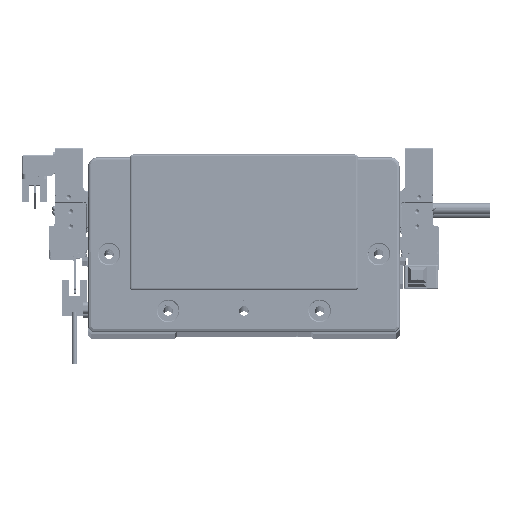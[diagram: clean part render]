
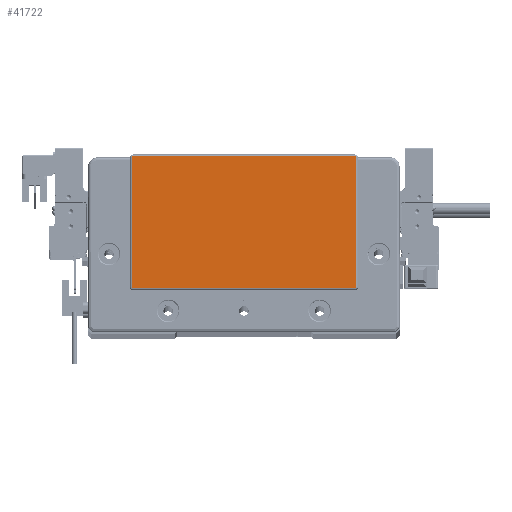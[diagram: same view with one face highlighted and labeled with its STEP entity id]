
A CAD part, top view. The second image highlights one B-rep face of the part: STEP entity #41722.
In plain terms, the highlighted planar face has unit normal (0, 0, 1) as drawn and (0, 0, -1) by its records, which use the part's own axes.
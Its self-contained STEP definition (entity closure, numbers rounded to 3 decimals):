
#4356 = DIRECTION ( 'NONE',  ( 0., 0., -1. ) ) ;
#4380 = CARTESIAN_POINT ( 'NONE',  ( -59.25, 45.3, -2. ) ) ;
#4850 = CIRCLE ( 'NONE', #36619, 0.5 ) ;
#5610 = VECTOR ( 'NONE', #25597, 1000. ) ;
#7044 = DIRECTION ( 'NONE',  ( -1., 0., 0. ) ) ;
#7665 = DIRECTION ( 'NONE',  ( 0., 0., -1. ) ) ;
#8133 = CARTESIAN_POINT ( 'NONE',  ( -59.25, 45.3, -2. ) ) ;
#10073 = CARTESIAN_POINT ( 'NONE',  ( 0., 0., -2. ) ) ;
#10451 = EDGE_CURVE ( 'NONE', #29167, #65577, #118923, .T. ) ;
#10681 = DIRECTION ( 'NONE',  ( 0., 0., -1. ) ) ;
#11844 = CARTESIAN_POINT ( 'NONE',  ( -58.75, 45.3, -2. ) ) ;
#15387 = CARTESIAN_POINT ( 'NONE',  ( 58.75, 45.8, -2. ) ) ;
#16030 = DIRECTION ( 'NONE',  ( 1., 0., 0. ) ) ;
#16765 = ORIENTED_EDGE ( 'NONE', *, *, #108187, .T. ) ;
#18838 = ORIENTED_EDGE ( 'NONE', *, *, #72847, .T. ) ;
#19329 = DIRECTION ( 'NONE',  ( -1., 0., 0. ) ) ;
#24817 = EDGE_LOOP ( 'NONE', ( #18838, #105384, #38894, #29027, #121169, #16765, #93704, #67493 ) ) ;
#25597 = DIRECTION ( 'NONE',  ( 0., -1., 0. ) ) ;
#28169 = DIRECTION ( 'NONE',  ( -1., 0., 0. ) ) ;
#29027 = ORIENTED_EDGE ( 'NONE', *, *, #10451, .T. ) ;
#29167 = VERTEX_POINT ( 'NONE', #69658 ) ;
#29185 = AXIS2_PLACEMENT_3D ( 'NONE', #10073, #10681, #28169 ) ;
#30512 = DIRECTION ( 'NONE',  ( 0., 0., -1. ) ) ;
#31315 = CARTESIAN_POINT ( 'NONE',  ( 58.75, 45.8, -2. ) ) ;
#33007 = VERTEX_POINT ( 'NONE', #31315 ) ;
#34618 = VERTEX_POINT ( 'NONE', #115700 ) ;
#36619 = AXIS2_PLACEMENT_3D ( 'NONE', #11844, #30512, #116253 ) ;
#38894 = ORIENTED_EDGE ( 'NONE', *, *, #116687, .T. ) ;
#39636 = VERTEX_POINT ( 'NONE', #80831 ) ;
#41722 = ADVANCED_FACE ( 'NONE', ( #66632 ), #76565, .T. ) ;
#47212 = VERTEX_POINT ( 'NONE', #8133 ) ;
#51893 = AXIS2_PLACEMENT_3D ( 'NONE', #61216, #98517, #61825 ) ;
#54477 = VERTEX_POINT ( 'NONE', #83769 ) ;
#54746 = LINE ( 'NONE', #110097, #5610 ) ;
#61216 = CARTESIAN_POINT ( 'NONE',  ( 58.75, -23.3, -2. ) ) ;
#61441 = AXIS2_PLACEMENT_3D ( 'NONE', #82871, #7665, #7044 ) ;
#61825 = DIRECTION ( 'NONE',  ( -1., 0., 0. ) ) ;
#65577 = VERTEX_POINT ( 'NONE', #92633 ) ;
#66632 = FACE_OUTER_BOUND ( 'NONE', #24817, .T. ) ;
#67361 = CIRCLE ( 'NONE', #61441, 0.5 ) ;
#67493 = ORIENTED_EDGE ( 'NONE', *, *, #73673, .T. ) ;
#69658 = CARTESIAN_POINT ( 'NONE',  ( -58.75, -23.8, -2. ) ) ;
#72847 = EDGE_CURVE ( 'NONE', #39636, #91967, #54746, .T. ) ;
#73673 = EDGE_CURVE ( 'NONE', #33007, #39636, #67361, .T. ) ;
#73812 = VECTOR ( 'NONE', #16030, 1000. ) ;
#76565 = PLANE ( 'NONE',  #29185 ) ;
#80831 = CARTESIAN_POINT ( 'NONE',  ( 59.25, 45.3, -2. ) ) ;
#82871 = CARTESIAN_POINT ( 'NONE',  ( 58.75, 45.3, -2. ) ) ;
#83769 = CARTESIAN_POINT ( 'NONE',  ( -58.75, 45.8, -2. ) ) ;
#88336 = EDGE_CURVE ( 'NONE', #65577, #47212, #89547, .T. ) ;
#89519 = CARTESIAN_POINT ( 'NONE',  ( -58.75, -23.3, -2. ) ) ;
#89547 = LINE ( 'NONE', #4380, #118904 ) ;
#91580 = CIRCLE ( 'NONE', #51893, 0.5 ) ;
#91967 = VERTEX_POINT ( 'NONE', #93698 ) ;
#91995 = DIRECTION ( 'NONE',  ( 0., 1., 0. ) ) ;
#92567 = VECTOR ( 'NONE', #19329, 1000. ) ;
#92633 = CARTESIAN_POINT ( 'NONE',  ( -59.25, -23.3, -2. ) ) ;
#93010 = EDGE_CURVE ( 'NONE', #54477, #33007, #109898, .T. ) ;
#93698 = CARTESIAN_POINT ( 'NONE',  ( 59.25, -23.3, -2. ) ) ;
#93704 = ORIENTED_EDGE ( 'NONE', *, *, #93010, .T. ) ;
#95766 = LINE ( 'NONE', #104477, #92567 ) ;
#98517 = DIRECTION ( 'NONE',  ( 0., 0., -1. ) ) ;
#100997 = AXIS2_PLACEMENT_3D ( 'NONE', #89519, #4356, #113350 ) ;
#103749 = EDGE_CURVE ( 'NONE', #91967, #34618, #91580, .T. ) ;
#104477 = CARTESIAN_POINT ( 'NONE',  ( -58.75, -23.8, -2. ) ) ;
#105384 = ORIENTED_EDGE ( 'NONE', *, *, #103749, .T. ) ;
#108187 = EDGE_CURVE ( 'NONE', #47212, #54477, #4850, .T. ) ;
#109898 = LINE ( 'NONE', #15387, #73812 ) ;
#110097 = CARTESIAN_POINT ( 'NONE',  ( 59.25, -23.3, -2. ) ) ;
#113350 = DIRECTION ( 'NONE',  ( -1., 0., 0. ) ) ;
#115700 = CARTESIAN_POINT ( 'NONE',  ( 58.75, -23.8, -2. ) ) ;
#116253 = DIRECTION ( 'NONE',  ( -1., 0., 0. ) ) ;
#116687 = EDGE_CURVE ( 'NONE', #34618, #29167, #95766, .T. ) ;
#118904 = VECTOR ( 'NONE', #91995, 1000. ) ;
#118923 = CIRCLE ( 'NONE', #100997, 0.5 ) ;
#121169 = ORIENTED_EDGE ( 'NONE', *, *, #88336, .T. ) ;
